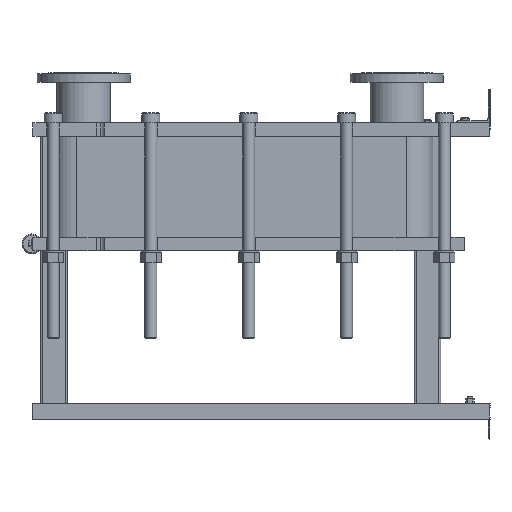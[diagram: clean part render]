
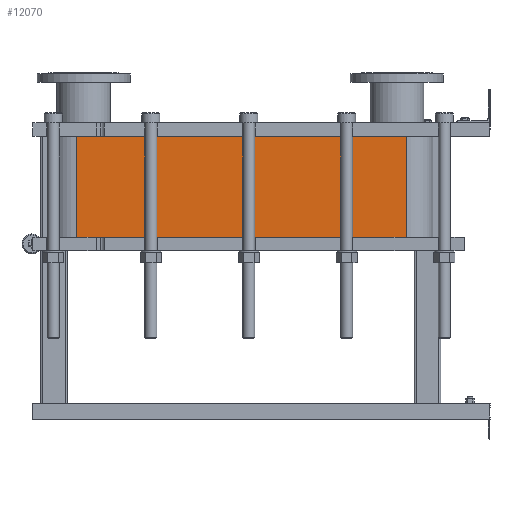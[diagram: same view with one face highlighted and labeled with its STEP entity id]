
A CAD part, left-side view. The second image highlights one B-rep face of the part: STEP entity #12070.
In plain terms, the highlighted planar face has unit normal (-1, 0, 0).
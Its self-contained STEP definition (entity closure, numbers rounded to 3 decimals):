
#1064=LINE('',#21140,#2164);
#1065=LINE('',#21144,#2165);
#1066=LINE('',#21146,#2166);
#1067=LINE('',#21147,#2167);
#2164=VECTOR('',#15790,10.);
#2165=VECTOR('',#15795,10.);
#2166=VECTOR('',#15796,10.);
#2167=VECTOR('',#15797,10.);
#3304=FACE_OUTER_BOUND('',#4091,.T.);
#4091=EDGE_LOOP('',(#9793,#9794,#9795,#9796));
#5677=VERTEX_POINT('',#21137);
#5678=VERTEX_POINT('',#21139);
#5679=VERTEX_POINT('',#21143);
#5680=VERTEX_POINT('',#21145);
#7118=EDGE_CURVE('',#5678,#5677,#1064,.T.);
#7120=EDGE_CURVE('',#5677,#5679,#1065,.T.);
#7121=EDGE_CURVE('',#5680,#5679,#1066,.T.);
#7122=EDGE_CURVE('',#5680,#5678,#1067,.T.);
#9793=ORIENTED_EDGE('',*,*,#7120,.T.);
#9794=ORIENTED_EDGE('',*,*,#7121,.F.);
#9795=ORIENTED_EDGE('',*,*,#7122,.T.);
#9796=ORIENTED_EDGE('',*,*,#7118,.T.);
#11441=PLANE('',#13191);
#12070=ADVANCED_FACE('',(#3304),#11441,.T.);
#13191=AXIS2_PLACEMENT_3D('',#21142,#15793,#15794);
#15790=DIRECTION('',(0.,0.,-1.));
#15793=DIRECTION('center_axis',(-1.,0.,0.));
#15794=DIRECTION('ref_axis',(0.,1.,0.));
#15795=DIRECTION('',(0.,-1.,0.));
#15796=DIRECTION('',(0.,0.,-1.));
#15797=DIRECTION('',(0.,1.,0.));
#21137=CARTESIAN_POINT('',(-248.152,1243.818,-303.6));
#21139=CARTESIAN_POINT('',(-248.152,1243.818,0.));
#21140=CARTESIAN_POINT('',(-248.152,1243.818,0.));
#21142=CARTESIAN_POINT('Origin',(-248.152,251.818,0.));
#21143=CARTESIAN_POINT('',(-248.152,251.818,-303.6));
#21144=CARTESIAN_POINT('',(-248.152,499.818,-303.6));
#21145=CARTESIAN_POINT('',(-248.152,251.818,0.));
#21146=CARTESIAN_POINT('',(-248.152,251.818,0.));
#21147=CARTESIAN_POINT('',(-248.152,251.818,0.));
